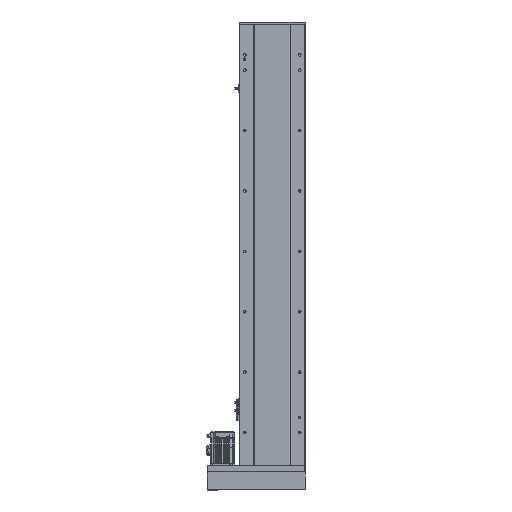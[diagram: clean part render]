
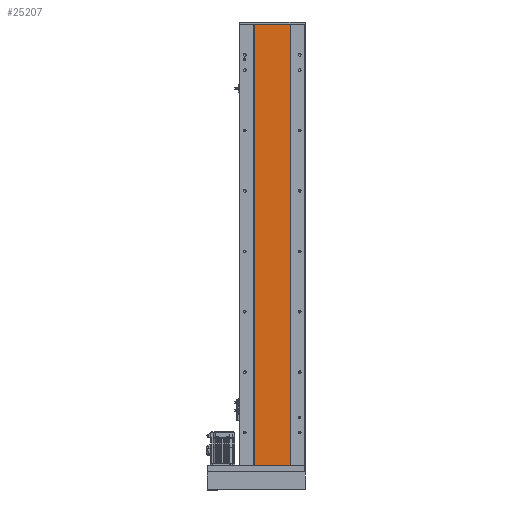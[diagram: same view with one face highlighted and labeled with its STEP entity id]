
A CAD part, front view. The second image highlights one B-rep face of the part: STEP entity #25207.
In plain terms, the highlighted planar face has unit normal (0, -1, 0).
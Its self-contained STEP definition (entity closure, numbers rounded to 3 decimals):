
#92 = EDGE_CURVE ( 'NONE', #19630, #28943, #19714, .T. ) ;
#3888 = VECTOR ( 'NONE', #33310, 1000. ) ;
#4841 = PLANE ( 'NONE',  #38607 ) ;
#8337 = FACE_OUTER_BOUND ( 'NONE', #20572, .T. ) ;
#9163 = EDGE_CURVE ( 'NONE', #12202, #23289, #19146, .T. ) ;
#10548 = ORIENTED_EDGE ( 'NONE', *, *, #9163, .F. ) ;
#12202 = VERTEX_POINT ( 'NONE', #16221 ) ;
#12551 = LINE ( 'NONE', #29461, #22021 ) ;
#14186 = CARTESIAN_POINT ( 'NONE',  ( 432.408, 155.016, 0. ) ) ;
#14617 = DIRECTION ( 'NONE',  ( 0., 0., -1. ) ) ;
#14836 = CARTESIAN_POINT ( 'NONE',  ( 432.408, 155.016, 1461. ) ) ;
#16221 = CARTESIAN_POINT ( 'NONE',  ( 432.408, 155.016, 1461. ) ) ;
#18818 = ORIENTED_EDGE ( 'NONE', *, *, #92, .T. ) ;
#19146 = LINE ( 'NONE', #36269, #22886 ) ;
#19317 = ORIENTED_EDGE ( 'NONE', *, *, #36516, .F. ) ;
#19630 = VERTEX_POINT ( 'NONE', #14186 ) ;
#19714 = LINE ( 'NONE', #29606, #3888 ) ;
#20572 = EDGE_LOOP ( 'NONE', ( #18818, #19317, #10548, #39370 ) ) ;
#21760 = DIRECTION ( 'NONE',  ( 0., 1., 0. ) ) ;
#22021 = VECTOR ( 'NONE', #42605, 1000. ) ;
#22886 = VECTOR ( 'NONE', #32541, 1000. ) ;
#23289 = VERTEX_POINT ( 'NONE', #37465 ) ;
#25207 = ADVANCED_FACE ( 'NONE', ( #8337 ), #4841, .F. ) ;
#28943 = VERTEX_POINT ( 'NONE', #34100 ) ;
#29461 = CARTESIAN_POINT ( 'NONE',  ( 551.58, 155.016, 1461. ) ) ;
#29606 = CARTESIAN_POINT ( 'NONE',  ( 0., 155.016, 0. ) ) ;
#31054 = EDGE_CURVE ( 'NONE', #12202, #19630, #31084, .T. ) ;
#31084 = LINE ( 'NONE', #14836, #39230 ) ;
#31830 = CARTESIAN_POINT ( 'NONE',  ( 0., 155.016, 1461. ) ) ;
#32541 = DIRECTION ( 'NONE',  ( 1., 0., 0. ) ) ;
#33310 = DIRECTION ( 'NONE',  ( 1., 0., 0. ) ) ;
#34100 = CARTESIAN_POINT ( 'NONE',  ( 551.58, 155.016, 0. ) ) ;
#36269 = CARTESIAN_POINT ( 'NONE',  ( 0., 155.016, 1461. ) ) ;
#36516 = EDGE_CURVE ( 'NONE', #23289, #28943, #12551, .T. ) ;
#37465 = CARTESIAN_POINT ( 'NONE',  ( 551.58, 155.016, 1461. ) ) ;
#38198 = DIRECTION ( 'NONE',  ( 0., 0., 1. ) ) ;
#38607 = AXIS2_PLACEMENT_3D ( 'NONE', #31830, #21760, #38198 ) ;
#39230 = VECTOR ( 'NONE', #14617, 1000. ) ;
#39370 = ORIENTED_EDGE ( 'NONE', *, *, #31054, .T. ) ;
#42605 = DIRECTION ( 'NONE',  ( 0., 0., -1. ) ) ;
